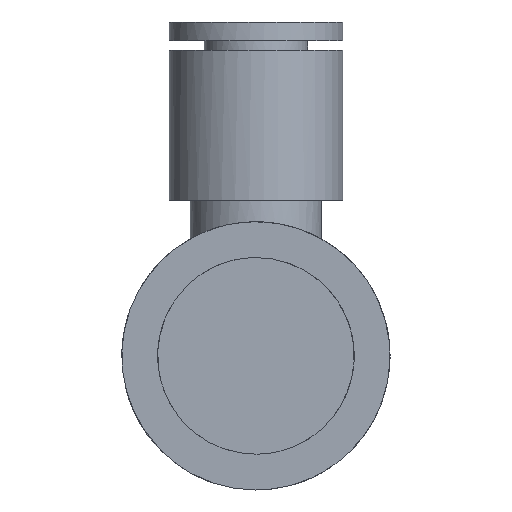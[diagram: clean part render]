
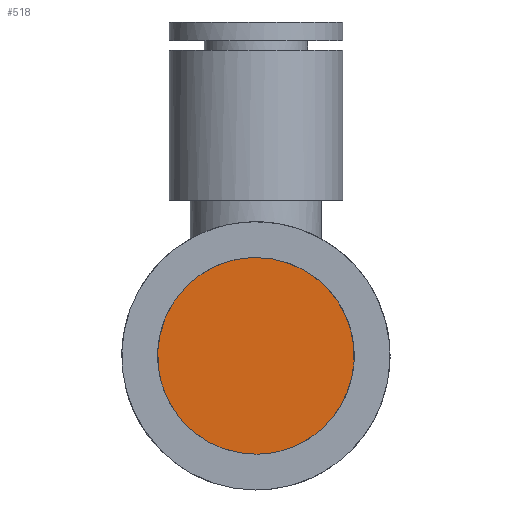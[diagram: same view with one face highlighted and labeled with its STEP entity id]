
A CAD part, front view. The second image highlights one B-rep face of the part: STEP entity #518.
In plain terms, the highlighted planar face has unit normal (0, -1, 0).
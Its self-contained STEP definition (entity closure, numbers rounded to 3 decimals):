
#186 = CARTESIAN_POINT ( 'NONE',  ( 20.955, -8.2, 10.478 ) ) ;
#402 = CARTESIAN_POINT ( 'NONE',  ( 0., -8.2, -10.478 ) ) ;
#416 = VERTEX_POINT ( 'NONE', #1484 ) ;
#507 = CARTESIAN_POINT ( 'NONE',  ( 0., -8.2, 10.478 ) ) ;
#518 = ADVANCED_FACE ( 'NONE', ( #1562 ), #1049, .T. ) ;
#553 = EDGE_LOOP ( 'NONE', ( #834, #1356 ) ) ;
#704 = CARTESIAN_POINT ( 'NONE',  ( -10.603, -8.2, 10.603 ) ) ;
#834 = ORIENTED_EDGE ( 'NONE', *, *, #2003, .F. ) ;
#865 = CARTESIAN_POINT ( 'NONE',  ( 20.955, -8.2, -10.478 ) ) ;
#881 = DIRECTION ( 'NONE',  ( 0., 0., -1. ) ) ;
#896 =( BOUNDED_CURVE ( )  B_SPLINE_CURVE ( 3, ( #2068, #2040, #1355, #507 ),
 .UNSPECIFIED., .F., .T. ) 
 B_SPLINE_CURVE_WITH_KNOTS ( ( 4, 4 ),
 ( 0.5, 1. ),
 .UNSPECIFIED. ) 
 CURVE ( )  GEOMETRIC_REPRESENTATION_ITEM ( )  RATIONAL_B_SPLINE_CURVE ( ( 1., 0.333, 0.333, 1. ) ) 
 REPRESENTATION_ITEM ( '' )  );
#907 = VERTEX_POINT ( 'NONE', #402 ) ;
#934 = AXIS2_PLACEMENT_3D ( 'NONE', #704, #1030, #881 ) ;
#971 =( BOUNDED_CURVE ( )  B_SPLINE_CURVE ( 3, ( #1380, #186, #865, #1733 ),
 .UNSPECIFIED., .F., .T. ) 
 B_SPLINE_CURVE_WITH_KNOTS ( ( 4, 4 ),
 ( 0., 0.5 ),
 .UNSPECIFIED. ) 
 CURVE ( )  GEOMETRIC_REPRESENTATION_ITEM ( )  RATIONAL_B_SPLINE_CURVE ( ( 1., 0.333, 0.333, 1. ) ) 
 REPRESENTATION_ITEM ( '' )  );
#1030 = DIRECTION ( 'NONE',  ( 0., -1., 0. ) ) ;
#1049 = PLANE ( 'NONE',  #934 ) ;
#1355 = CARTESIAN_POINT ( 'NONE',  ( -20.955, -8.2, 10.478 ) ) ;
#1356 = ORIENTED_EDGE ( 'NONE', *, *, #1972, .F. ) ;
#1380 = CARTESIAN_POINT ( 'NONE',  ( 0., -8.2, 10.478 ) ) ;
#1484 = CARTESIAN_POINT ( 'NONE',  ( 0., -8.2, 10.478 ) ) ;
#1562 = FACE_OUTER_BOUND ( 'NONE', #553, .T. ) ;
#1733 = CARTESIAN_POINT ( 'NONE',  ( 0., -8.2, -10.478 ) ) ;
#1972 = EDGE_CURVE ( 'NONE', #907, #416, #896, .T. ) ;
#2003 = EDGE_CURVE ( 'NONE', #416, #907, #971, .T. ) ;
#2040 = CARTESIAN_POINT ( 'NONE',  ( -20.955, -8.2, -10.477 ) ) ;
#2068 = CARTESIAN_POINT ( 'NONE',  ( 0., -8.2, -10.478 ) ) ;
